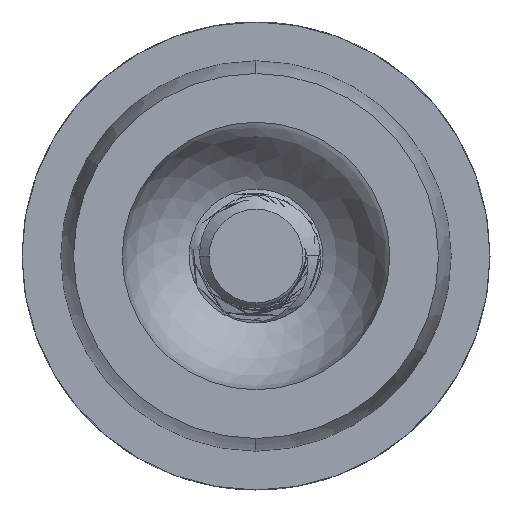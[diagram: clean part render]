
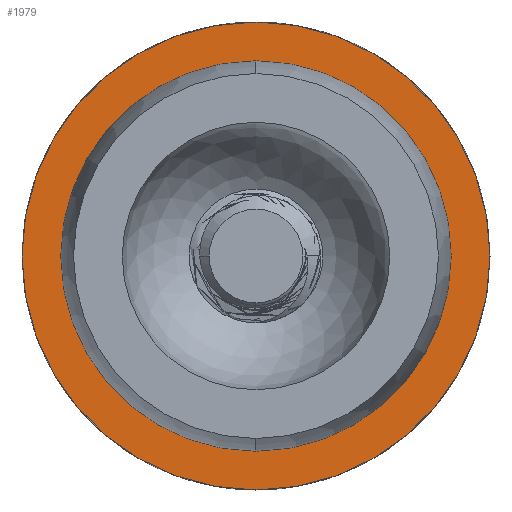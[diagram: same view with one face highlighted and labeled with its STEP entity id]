
A CAD part, left-side view. The second image highlights one B-rep face of the part: STEP entity #1979.
In plain terms, the highlighted planar face has unit normal (-1, 0, 0).
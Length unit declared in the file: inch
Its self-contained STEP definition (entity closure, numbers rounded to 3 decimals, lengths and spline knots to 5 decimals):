
#20 = CARTESIAN_POINT ( 'NONE',  ( -0.75, 0., 0. ) ) ;
#216 = FACE_OUTER_BOUND ( 'NONE', #5180, .T. ) ;
#641 = AXIS2_PLACEMENT_3D ( 'NONE', #7535, #4512, #867 ) ;
#654 = DIRECTION ( 'NONE',  ( 0., 0., 1. ) ) ;
#867 = DIRECTION ( 'NONE',  ( 0., 0., 1. ) ) ;
#1028 = CIRCLE ( 'NONE', #3247, 0.4375 ) ;
#1077 = CIRCLE ( 'NONE', #3188, 0.4375 ) ;
#1168 = CIRCLE ( 'NONE', #1240, 0.365 ) ;
#1240 = AXIS2_PLACEMENT_3D ( 'NONE', #3185, #7435, #3802 ) ;
#1551 = ORIENTED_EDGE ( 'NONE', *, *, #4003, .T. ) ;
#1797 = AXIS2_PLACEMENT_3D ( 'NONE', #3027, #7281, #3646 ) ;
#1979 = ADVANCED_FACE ( 'NONE', ( #4686, #216 ), #3916, .T. ) ;
#2636 = EDGE_CURVE ( 'NONE', #3056, #6983, #1077, .T. ) ;
#2981 = EDGE_CURVE ( 'NONE', #6989, #3534, #6199, .T. ) ;
#3027 = CARTESIAN_POINT ( 'NONE',  ( -0.75, 0., 0. ) ) ;
#3056 = VERTEX_POINT ( 'NONE', #3107 ) ;
#3102 = EDGE_CURVE ( 'NONE', #3534, #6989, #1168, .T. ) ;
#3107 = CARTESIAN_POINT ( 'NONE',  ( -0.75, 0., 0.4375 ) ) ;
#3185 = CARTESIAN_POINT ( 'NONE',  ( -0.75, 0., 0. ) ) ;
#3188 = AXIS2_PLACEMENT_3D ( 'NONE', #6995, #3351, #7601 ) ;
#3247 = AXIS2_PLACEMENT_3D ( 'NONE', #20, #4286, #654 ) ;
#3351 = DIRECTION ( 'NONE',  ( -1., 0., 0. ) ) ;
#3353 = ORIENTED_EDGE ( 'NONE', *, *, #2636, .T. ) ;
#3534 = VERTEX_POINT ( 'NONE', #6190 ) ;
#3646 = DIRECTION ( 'NONE',  ( 0., 0., 1. ) ) ;
#3703 = CARTESIAN_POINT ( 'NONE',  ( -0.75, 0., -0.365 ) ) ;
#3758 = ORIENTED_EDGE ( 'NONE', *, *, #2981, .F. ) ;
#3802 = DIRECTION ( 'NONE',  ( 0., 0., 1. ) ) ;
#3916 = PLANE ( 'NONE',  #641 ) ;
#4003 = EDGE_CURVE ( 'NONE', #6983, #3056, #1028, .T. ) ;
#4286 = DIRECTION ( 'NONE',  ( -1., 0., 0. ) ) ;
#4512 = DIRECTION ( 'NONE',  ( -1., 0., 0. ) ) ;
#4686 = FACE_BOUND ( 'NONE', #7460, .T. ) ;
#5180 = EDGE_LOOP ( 'NONE', ( #3353, #1551 ) ) ;
#5925 = ORIENTED_EDGE ( 'NONE', *, *, #3102, .F. ) ;
#6065 = CARTESIAN_POINT ( 'NONE',  ( -0.75, 0., -0.4375 ) ) ;
#6190 = CARTESIAN_POINT ( 'NONE',  ( -0.75, 0., 0.365 ) ) ;
#6199 = CIRCLE ( 'NONE', #1797, 0.365 ) ;
#6983 = VERTEX_POINT ( 'NONE', #6065 ) ;
#6989 = VERTEX_POINT ( 'NONE', #3703 ) ;
#6995 = CARTESIAN_POINT ( 'NONE',  ( -0.75, 0., 0. ) ) ;
#7281 = DIRECTION ( 'NONE',  ( -1., 0., 0. ) ) ;
#7435 = DIRECTION ( 'NONE',  ( -1., 0., 0. ) ) ;
#7460 = EDGE_LOOP ( 'NONE', ( #5925, #3758 ) ) ;
#7535 = CARTESIAN_POINT ( 'NONE',  ( -0.75, 0., 0.4375 ) ) ;
#7601 = DIRECTION ( 'NONE',  ( 0., 0., 1. ) ) ;
